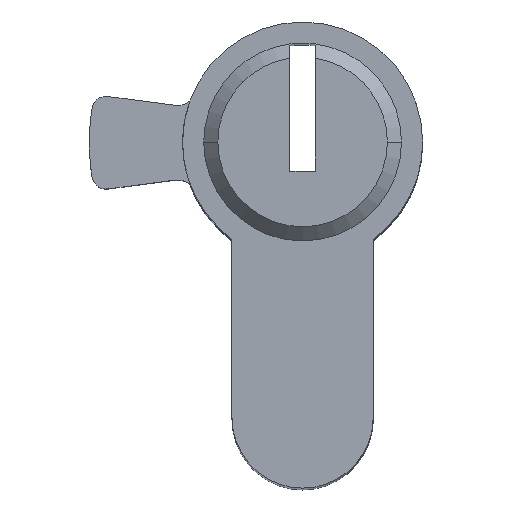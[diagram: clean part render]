
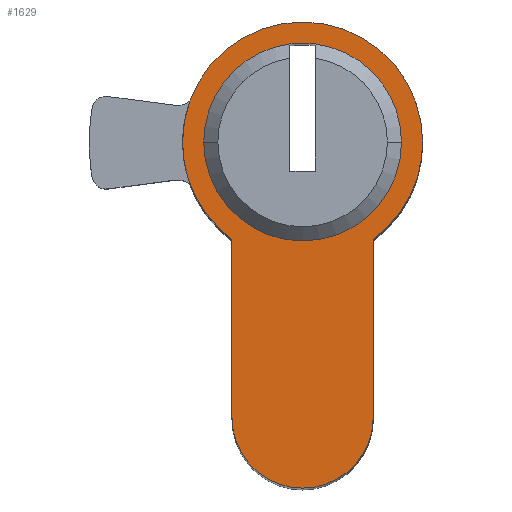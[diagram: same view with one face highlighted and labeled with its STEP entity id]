
A CAD part, top view. The second image highlights one B-rep face of the part: STEP entity #1629.
In plain terms, the highlighted planar face has unit normal (0, 0, 1).
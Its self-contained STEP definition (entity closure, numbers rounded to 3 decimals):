
#8 = EDGE_LOOP ( 'NONE', ( #1572, #1771, #1233, #407, #969, #432 ) ) ;
#11 = CARTESIAN_POINT ( 'NONE',  ( 0.9, 6.942, 30. ) ) ;
#50 = VECTOR ( 'NONE', #267, 1000. ) ;
#77 = EDGE_CURVE ( 'NONE', #475, #1244, #1086, .T. ) ;
#87 = LINE ( 'NONE', #1067, #488 ) ;
#154 = CARTESIAN_POINT ( 'NONE',  ( 0., 0., 30. ) ) ;
#178 = CARTESIAN_POINT ( 'NONE',  ( 0., 0., 30. ) ) ;
#189 = DIRECTION ( 'NONE',  ( 1., 0., 0. ) ) ;
#242 = VERTEX_POINT ( 'NONE', #479 ) ;
#248 = CARTESIAN_POINT ( 'NONE',  ( -7., 0., 30. ) ) ;
#267 = DIRECTION ( 'NONE',  ( 0., 1., 0. ) ) ;
#278 = CARTESIAN_POINT ( 'NONE',  ( 5., -19.5, 30. ) ) ;
#286 = DIRECTION ( 'NONE',  ( 0., 0., 1. ) ) ;
#313 = AXIS2_PLACEMENT_3D ( 'NONE', #1283, #554, #439 ) ;
#366 = DIRECTION ( 'NONE',  ( 0., 0., 1. ) ) ;
#407 = ORIENTED_EDGE ( 'NONE', *, *, #1279, .T. ) ;
#415 = VERTEX_POINT ( 'NONE', #11 ) ;
#430 = AXIS2_PLACEMENT_3D ( 'NONE', #154, #286, #1232 ) ;
#432 = ORIENTED_EDGE ( 'NONE', *, *, #1203, .T. ) ;
#439 = DIRECTION ( 'NONE',  ( 1., 0., 0. ) ) ;
#470 = DIRECTION ( 'NONE',  ( 1., 0., 0. ) ) ;
#475 = VERTEX_POINT ( 'NONE', #559 ) ;
#479 = CARTESIAN_POINT ( 'NONE',  ( -5., -6.874, 30. ) ) ;
#482 = AXIS2_PLACEMENT_3D ( 'NONE', #1305, #1026, #189 ) ;
#488 = VECTOR ( 'NONE', #1476, 1000. ) ;
#490 = DIRECTION ( 'NONE',  ( 0., 0., 1. ) ) ;
#494 = CARTESIAN_POINT ( 'NONE',  ( 0., 0., 30. ) ) ;
#495 = FACE_OUTER_BOUND ( 'NONE', #8, .T. ) ;
#496 = ORIENTED_EDGE ( 'NONE', *, *, #1710, .F. ) ;
#501 = FACE_BOUND ( 'NONE', #1359, .T. ) ;
#520 = ORIENTED_EDGE ( 'NONE', *, *, #625, .F. ) ;
#539 = CIRCLE ( 'NONE', #938, 7. ) ;
#554 = DIRECTION ( 'NONE',  ( 0., 0., 1. ) ) ;
#559 = CARTESIAN_POINT ( 'NONE',  ( 5., -6.874, 30. ) ) ;
#580 = CARTESIAN_POINT ( 'NONE',  ( 0., 0., 30. ) ) ;
#586 = EDGE_CURVE ( 'NONE', #1244, #1019, #1378, .T. ) ;
#609 = VERTEX_POINT ( 'NONE', #892 ) ;
#619 = CARTESIAN_POINT ( 'NONE',  ( 7., 0., 30. ) ) ;
#625 = EDGE_CURVE ( 'NONE', #1439, #415, #539, .T. ) ;
#628 = AXIS2_PLACEMENT_3D ( 'NONE', #1028, #490, #1306 ) ;
#724 = VERTEX_POINT ( 'NONE', #248 ) ;
#728 = DIRECTION ( 'NONE',  ( 0., 0., 1. ) ) ;
#754 = VERTEX_POINT ( 'NONE', #904 ) ;
#768 = DIRECTION ( 'NONE',  ( 0., 0., 1. ) ) ;
#786 = PLANE ( 'NONE',  #890 ) ;
#794 = CARTESIAN_POINT ( 'NONE',  ( 0., 0., 30. ) ) ;
#845 = DIRECTION ( 'NONE',  ( 1., 0., 0. ) ) ;
#890 = AXIS2_PLACEMENT_3D ( 'NONE', #1209, #768, #1045 ) ;
#892 = CARTESIAN_POINT ( 'NONE',  ( -5., -19.5, 30. ) ) ;
#904 = CARTESIAN_POINT ( 'NONE',  ( -0.9, 6.942, 30. ) ) ;
#932 = DIRECTION ( 'NONE',  ( 1., 0., 0. ) ) ;
#938 = AXIS2_PLACEMENT_3D ( 'NONE', #494, #1159, #470 ) ;
#969 = ORIENTED_EDGE ( 'NONE', *, *, #1436, .T. ) ;
#990 = EDGE_CURVE ( 'NONE', #415, #754, #1239, .T. ) ;
#997 = DIRECTION ( 'NONE',  ( 1., 0., 0. ) ) ;
#1019 = VERTEX_POINT ( 'NONE', #1659 ) ;
#1026 = DIRECTION ( 'NONE',  ( 0., 0., 1. ) ) ;
#1028 = CARTESIAN_POINT ( 'NONE',  ( 0., -19.5, 30. ) ) ;
#1045 = DIRECTION ( 'NONE',  ( 1., 0., 0. ) ) ;
#1049 = LINE ( 'NONE', #1612, #50 ) ;
#1067 = CARTESIAN_POINT ( 'NONE',  ( -5., -6.874, 30. ) ) ;
#1086 = CIRCLE ( 'NONE', #313, 8.5 ) ;
#1096 = CIRCLE ( 'NONE', #1181, 8.5 ) ;
#1136 = DIRECTION ( 'NONE',  ( 0., 0., 1. ) ) ;
#1156 = CIRCLE ( 'NONE', #628, 5. ) ;
#1159 = DIRECTION ( 'NONE',  ( 0., 0., 1. ) ) ;
#1181 = AXIS2_PLACEMENT_3D ( 'NONE', #794, #366, #932 ) ;
#1197 = ORIENTED_EDGE ( 'NONE', *, *, #1344, .F. ) ;
#1203 = EDGE_CURVE ( 'NONE', #1389, #475, #1049, .T. ) ;
#1209 = CARTESIAN_POINT ( 'NONE',  ( 0., 0., 30. ) ) ;
#1232 = DIRECTION ( 'NONE',  ( 1., 0., 0. ) ) ;
#1233 = ORIENTED_EDGE ( 'NONE', *, *, #1565, .T. ) ;
#1239 = CIRCLE ( 'NONE', #1495, 7. ) ;
#1244 = VERTEX_POINT ( 'NONE', #1466 ) ;
#1279 = EDGE_CURVE ( 'NONE', #242, #609, #87, .T. ) ;
#1283 = CARTESIAN_POINT ( 'NONE',  ( 0., 0., 30. ) ) ;
#1305 = CARTESIAN_POINT ( 'NONE',  ( 0., 0., 30. ) ) ;
#1306 = DIRECTION ( 'NONE',  ( 1., 0., 0. ) ) ;
#1344 = EDGE_CURVE ( 'NONE', #724, #1439, #1718, .T. ) ;
#1359 = EDGE_LOOP ( 'NONE', ( #1497, #520, #1197, #496 ) ) ;
#1378 = CIRCLE ( 'NONE', #482, 8.5 ) ;
#1389 = VERTEX_POINT ( 'NONE', #278 ) ;
#1436 = EDGE_CURVE ( 'NONE', #609, #1389, #1156, .T. ) ;
#1439 = VERTEX_POINT ( 'NONE', #619 ) ;
#1466 = CARTESIAN_POINT ( 'NONE',  ( 8.5, 0., 30. ) ) ;
#1469 = CIRCLE ( 'NONE', #1581, 7. ) ;
#1476 = DIRECTION ( 'NONE',  ( 0., -1., 0. ) ) ;
#1495 = AXIS2_PLACEMENT_3D ( 'NONE', #580, #728, #997 ) ;
#1497 = ORIENTED_EDGE ( 'NONE', *, *, #990, .F. ) ;
#1565 = EDGE_CURVE ( 'NONE', #1019, #242, #1096, .T. ) ;
#1572 = ORIENTED_EDGE ( 'NONE', *, *, #77, .T. ) ;
#1581 = AXIS2_PLACEMENT_3D ( 'NONE', #178, #1136, #845 ) ;
#1612 = CARTESIAN_POINT ( 'NONE',  ( 5., -19.5, 30. ) ) ;
#1629 = ADVANCED_FACE ( 'NONE', ( #501, #495 ), #786, .T. ) ;
#1659 = CARTESIAN_POINT ( 'NONE',  ( -8.5, 0., 30. ) ) ;
#1710 = EDGE_CURVE ( 'NONE', #754, #724, #1469, .T. ) ;
#1718 = CIRCLE ( 'NONE', #430, 7. ) ;
#1771 = ORIENTED_EDGE ( 'NONE', *, *, #586, .T. ) ;
